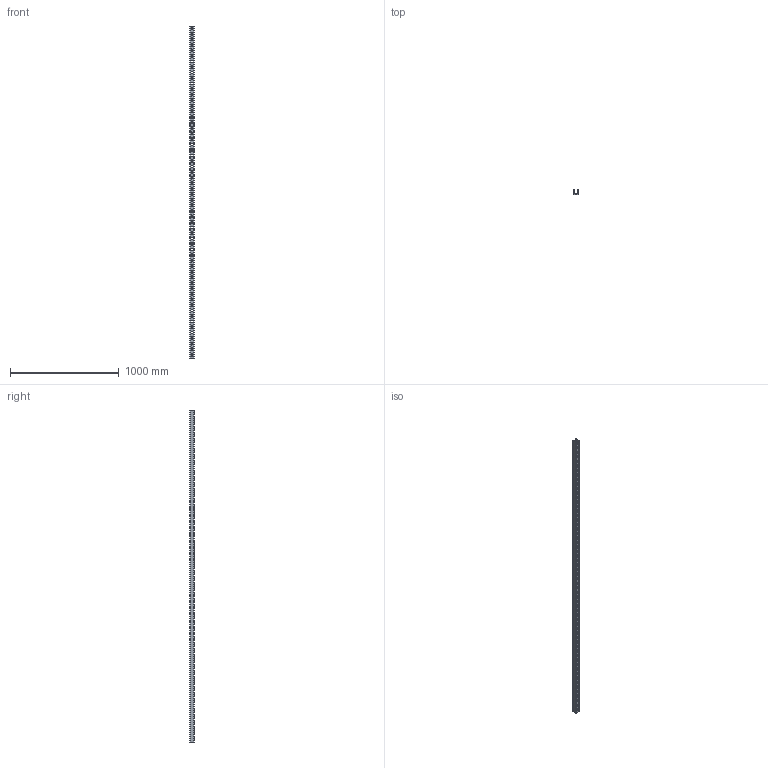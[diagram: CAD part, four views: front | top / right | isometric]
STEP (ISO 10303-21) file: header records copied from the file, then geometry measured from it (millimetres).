
FILE_DESCRIPTION(('TurboCAD Mac Pro'),'Build 980');
FILE_NAME('20P-2200.stp',' ',(''),(''),'ACIS Interop','IMSI','TurboCAD Mac Pro BY IMSI, INCORPORATED');
FILE_SCHEMA(('automotive_design'));
Length unit declared in the file: inch
Products named in the file (1): 1
Bounding box: 41.25 x 41.26 x 3048 mm (x, y, z)
Volume: 1587496.6 mm3; surface area: 752767.7 mm2
Topology: 1 solids, 1 shells, 392 faces, 1170 edges, 780 vertices
Faces by surface type: bspline 258, plane 134
Entity records: 21718 total; most frequent: CARTESIAN_POINT 9553, ORIENTED_EDGE 2340, EDGE_CURVE 1170, DIRECTION 940, VERTEX_POINT 780, LINE 654, VECTOR 654, EDGE_LOOP 512
